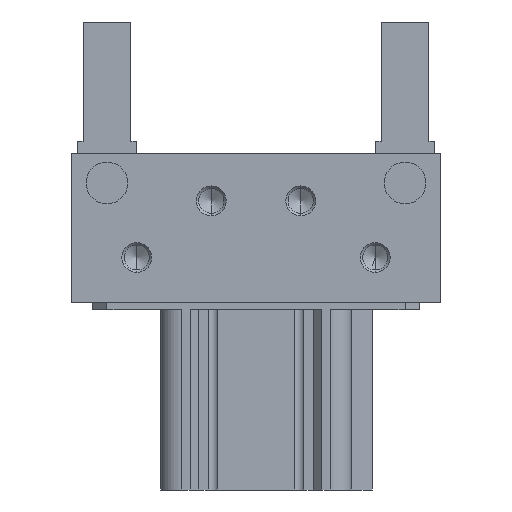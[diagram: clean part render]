
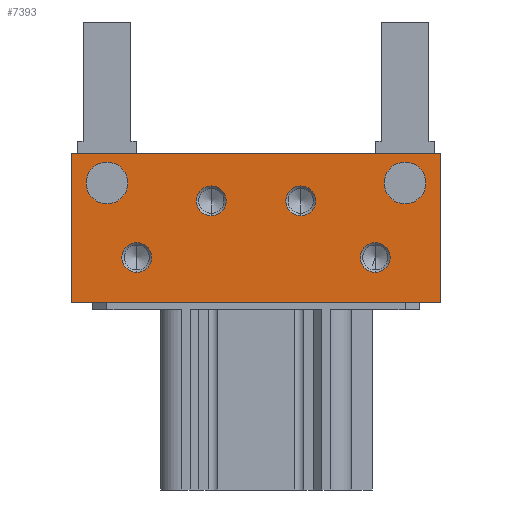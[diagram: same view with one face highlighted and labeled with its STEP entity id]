
A CAD part, front view. The second image highlights one B-rep face of the part: STEP entity #7393.
In plain terms, the highlighted planar face has unit normal (0, -1, 0).
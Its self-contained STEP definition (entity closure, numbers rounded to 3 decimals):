
#45 = DIRECTION ( 'NONE',  ( 0., 0., 1. ) ) ;
#60 = ORIENTED_EDGE ( 'NONE', *, *, #2615, .T. ) ;
#98 = ORIENTED_EDGE ( 'NONE', *, *, #6230, .T. ) ;
#113 = CARTESIAN_POINT ( 'NONE',  ( -15., -33., 97. ) ) ;
#180 = EDGE_CURVE ( 'NONE', #6258, #3249, #8071, .T. ) ;
#243 = CARTESIAN_POINT ( 'NONE',  ( 15., -33., 102. ) ) ;
#271 = VECTOR ( 'NONE', #5288, 1000. ) ;
#307 = DIRECTION ( 'NONE',  ( 0., 1., 0. ) ) ;
#324 = DIRECTION ( 'NONE',  ( 0., 1., 0. ) ) ;
#366 = FACE_BOUND ( 'NONE', #6221, .T. ) ;
#367 = CARTESIAN_POINT ( 'NONE',  ( -50., -33., 96. ) ) ;
#507 = VERTEX_POINT ( 'NONE', #7177 ) ;
#561 = VERTEX_POINT ( 'NONE', #4647 ) ;
#563 = VECTOR ( 'NONE', #45, 1000. ) ;
#687 = VERTEX_POINT ( 'NONE', #1142 ) ;
#784 = CARTESIAN_POINT ( 'NONE',  ( 62., -33., 63. ) ) ;
#892 = CARTESIAN_POINT ( 'NONE',  ( 62., -33., 113. ) ) ;
#919 = CARTESIAN_POINT ( 'NONE',  ( 40., -33., 83. ) ) ;
#959 = CARTESIAN_POINT ( 'NONE',  ( 15., -33., 97. ) ) ;
#974 = ORIENTED_EDGE ( 'NONE', *, *, #6402, .T. ) ;
#993 = DIRECTION ( 'NONE',  ( 0., 1., 0. ) ) ;
#1071 = VERTEX_POINT ( 'NONE', #2193 ) ;
#1076 = CIRCLE ( 'NONE', #3935, 5. ) ;
#1107 = DIRECTION ( 'NONE',  ( 0., 0., 1. ) ) ;
#1142 = CARTESIAN_POINT ( 'NONE',  ( 15., -33., 92. ) ) ;
#1165 = CIRCLE ( 'NONE', #4554, 7. ) ;
#1188 = DIRECTION ( 'NONE',  ( 0., 1., 0. ) ) ;
#1203 = AXIS2_PLACEMENT_3D ( 'NONE', #3915, #324, #2814 ) ;
#1348 = CIRCLE ( 'NONE', #6535, 5. ) ;
#1480 = EDGE_CURVE ( 'NONE', #687, #7184, #5240, .T. ) ;
#1630 = ORIENTED_EDGE ( 'NONE', *, *, #180, .T. ) ;
#1631 = EDGE_CURVE ( 'NONE', #4133, #561, #1840, .T. ) ;
#1681 = DIRECTION ( 'NONE',  ( 0., 1., 0. ) ) ;
#1739 = DIRECTION ( 'NONE',  ( 0., 0., 1. ) ) ;
#1762 = CARTESIAN_POINT ( 'NONE',  ( 50., -33., 103. ) ) ;
#1834 = DIRECTION ( 'NONE',  ( 0., 0., 1. ) ) ;
#1840 = LINE ( 'NONE', #1925, #563 ) ;
#1856 = EDGE_LOOP ( 'NONE', ( #2280, #5643 ) ) ;
#1878 = EDGE_CURVE ( 'NONE', #7521, #507, #4477, .T. ) ;
#1925 = CARTESIAN_POINT ( 'NONE',  ( -62., -33., 63. ) ) ;
#1937 = DIRECTION ( 'NONE',  ( 0., 0., 1. ) ) ;
#2084 = CARTESIAN_POINT ( 'NONE',  ( -15., -33., 92. ) ) ;
#2123 = EDGE_CURVE ( 'NONE', #3249, #6258, #6038, .T. ) ;
#2126 = PLANE ( 'NONE',  #1203 ) ;
#2193 = CARTESIAN_POINT ( 'NONE',  ( -50., -33., 110. ) ) ;
#2195 = VERTEX_POINT ( 'NONE', #6074 ) ;
#2260 = AXIS2_PLACEMENT_3D ( 'NONE', #7899, #7815, #7939 ) ;
#2280 = ORIENTED_EDGE ( 'NONE', *, *, #7707, .T. ) ;
#2347 = AXIS2_PLACEMENT_3D ( 'NONE', #6727, #6031, #1107 ) ;
#2467 = EDGE_LOOP ( 'NONE', ( #4024, #3415 ) ) ;
#2478 = VERTEX_POINT ( 'NONE', #784 ) ;
#2492 = VERTEX_POINT ( 'NONE', #367 ) ;
#2595 = VERTEX_POINT ( 'NONE', #5178 ) ;
#2615 = EDGE_CURVE ( 'NONE', #2195, #2834, #1165, .T. ) ;
#2619 = AXIS2_PLACEMENT_3D ( 'NONE', #2797, #307, #4478 ) ;
#2628 = EDGE_CURVE ( 'NONE', #1071, #2492, #5083, .T. ) ;
#2643 = ORIENTED_EDGE ( 'NONE', *, *, #7062, .F. ) ;
#2746 = CARTESIAN_POINT ( 'NONE',  ( 40., -33., 78. ) ) ;
#2797 = CARTESIAN_POINT ( 'NONE',  ( -50., -33., 103. ) ) ;
#2814 = DIRECTION ( 'NONE',  ( 1., 0., 0. ) ) ;
#2834 = VERTEX_POINT ( 'NONE', #3190 ) ;
#2853 = ORIENTED_EDGE ( 'NONE', *, *, #5595, .F. ) ;
#2917 = DIRECTION ( 'NONE',  ( 0., 1., 0. ) ) ;
#2953 = DIRECTION ( 'NONE',  ( 0., 0., 1. ) ) ;
#2981 = DIRECTION ( 'NONE',  ( 1., 0., 0. ) ) ;
#3030 = EDGE_LOOP ( 'NONE', ( #7938, #2853, #2643, #3579 ) ) ;
#3038 = EDGE_LOOP ( 'NONE', ( #60, #5564 ) ) ;
#3178 = CARTESIAN_POINT ( 'NONE',  ( -62., -33., 63. ) ) ;
#3190 = CARTESIAN_POINT ( 'NONE',  ( 50., -33., 110. ) ) ;
#3249 = VERTEX_POINT ( 'NONE', #3254 ) ;
#3254 = CARTESIAN_POINT ( 'NONE',  ( 40., -33., 73. ) ) ;
#3262 = CIRCLE ( 'NONE', #5746, 5. ) ;
#3294 = AXIS2_PLACEMENT_3D ( 'NONE', #5656, #4320, #1834 ) ;
#3308 = FACE_BOUND ( 'NONE', #5844, .T. ) ;
#3392 = FACE_BOUND ( 'NONE', #2467, .T. ) ;
#3415 = ORIENTED_EDGE ( 'NONE', *, *, #7895, .T. ) ;
#3473 = AXIS2_PLACEMENT_3D ( 'NONE', #3537, #7158, #4058 ) ;
#3537 = CARTESIAN_POINT ( 'NONE',  ( 50., -33., 103. ) ) ;
#3579 = ORIENTED_EDGE ( 'NONE', *, *, #6911, .F. ) ;
#3587 = CARTESIAN_POINT ( 'NONE',  ( -15., -33., 102. ) ) ;
#3915 = CARTESIAN_POINT ( 'NONE',  ( 0., -33., 0. ) ) ;
#3935 = AXIS2_PLACEMENT_3D ( 'NONE', #4212, #993, #2953 ) ;
#4024 = ORIENTED_EDGE ( 'NONE', *, *, #1878, .T. ) ;
#4058 = DIRECTION ( 'NONE',  ( 1., 0., 0. ) ) ;
#4133 = VERTEX_POINT ( 'NONE', #3178 ) ;
#4157 = CARTESIAN_POINT ( 'NONE',  ( 62., -33., 63. ) ) ;
#4200 = LINE ( 'NONE', #4157, #4659 ) ;
#4212 = CARTESIAN_POINT ( 'NONE',  ( -15., -33., 97. ) ) ;
#4220 = EDGE_CURVE ( 'NONE', #2834, #2195, #5805, .T. ) ;
#4320 = DIRECTION ( 'NONE',  ( 0., 1., 0. ) ) ;
#4477 = CIRCLE ( 'NONE', #2260, 5. ) ;
#4478 = DIRECTION ( 'NONE',  ( 1., 0., 0. ) ) ;
#4486 = EDGE_LOOP ( 'NONE', ( #98, #5232 ) ) ;
#4554 = AXIS2_PLACEMENT_3D ( 'NONE', #1762, #1188, #2981 ) ;
#4647 = CARTESIAN_POINT ( 'NONE',  ( -62., -33., 113. ) ) ;
#4659 = VECTOR ( 'NONE', #6680, 1000. ) ;
#4877 = VERTEX_POINT ( 'NONE', #2084 ) ;
#4950 = CARTESIAN_POINT ( 'NONE',  ( -40., -33., 78. ) ) ;
#5083 = CIRCLE ( 'NONE', #5984, 7. ) ;
#5178 = CARTESIAN_POINT ( 'NONE',  ( 62., -33., 113. ) ) ;
#5232 = ORIENTED_EDGE ( 'NONE', *, *, #2628, .T. ) ;
#5240 = CIRCLE ( 'NONE', #3294, 5. ) ;
#5288 = DIRECTION ( 'NONE',  ( 0., 0., -1. ) ) ;
#5320 = EDGE_CURVE ( 'NONE', #7306, #4877, #5715, .T. ) ;
#5564 = ORIENTED_EDGE ( 'NONE', *, *, #4220, .T. ) ;
#5595 = EDGE_CURVE ( 'NONE', #2478, #4133, #4200, .T. ) ;
#5643 = ORIENTED_EDGE ( 'NONE', *, *, #5320, .T. ) ;
#5656 = CARTESIAN_POINT ( 'NONE',  ( 15., -33., 97. ) ) ;
#5704 = DIRECTION ( 'NONE',  ( 1., 0., 0. ) ) ;
#5715 = CIRCLE ( 'NONE', #7794, 5. ) ;
#5746 = AXIS2_PLACEMENT_3D ( 'NONE', #959, #2917, #1739 ) ;
#5805 = CIRCLE ( 'NONE', #3473, 7. ) ;
#5844 = EDGE_LOOP ( 'NONE', ( #7492, #974 ) ) ;
#5863 = VECTOR ( 'NONE', #5704, 1000. ) ;
#5907 = FACE_BOUND ( 'NONE', #4486, .T. ) ;
#5965 = ORIENTED_EDGE ( 'NONE', *, *, #2123, .T. ) ;
#5984 = AXIS2_PLACEMENT_3D ( 'NONE', #6810, #6723, #6110 ) ;
#6031 = DIRECTION ( 'NONE',  ( 0., 1., 0. ) ) ;
#6038 = CIRCLE ( 'NONE', #6691, 5. ) ;
#6074 = CARTESIAN_POINT ( 'NONE',  ( 50., -33., 96. ) ) ;
#6110 = DIRECTION ( 'NONE',  ( 1., 0., 0. ) ) ;
#6124 = CIRCLE ( 'NONE', #2619, 7. ) ;
#6221 = EDGE_LOOP ( 'NONE', ( #5965, #1630 ) ) ;
#6230 = EDGE_CURVE ( 'NONE', #2492, #1071, #6124, .T. ) ;
#6258 = VERTEX_POINT ( 'NONE', #919 ) ;
#6402 = EDGE_CURVE ( 'NONE', #7184, #687, #3262, .T. ) ;
#6432 = FACE_BOUND ( 'NONE', #3038, .T. ) ;
#6530 = CARTESIAN_POINT ( 'NONE',  ( -40., -33., 73. ) ) ;
#6535 = AXIS2_PLACEMENT_3D ( 'NONE', #4950, #8045, #1937 ) ;
#6559 = FACE_OUTER_BOUND ( 'NONE', #3030, .T. ) ;
#6561 = DIRECTION ( 'NONE',  ( 0., 0., 1. ) ) ;
#6680 = DIRECTION ( 'NONE',  ( -1., 0., 0. ) ) ;
#6691 = AXIS2_PLACEMENT_3D ( 'NONE', #2746, #7058, #7143 ) ;
#6723 = DIRECTION ( 'NONE',  ( 0., 1., 0. ) ) ;
#6727 = CARTESIAN_POINT ( 'NONE',  ( 40., -33., 78. ) ) ;
#6810 = CARTESIAN_POINT ( 'NONE',  ( -50., -33., 103. ) ) ;
#6895 = LINE ( 'NONE', #7619, #5863 ) ;
#6911 = EDGE_CURVE ( 'NONE', #561, #2595, #6895, .T. ) ;
#7058 = DIRECTION ( 'NONE',  ( 0., 1., 0. ) ) ;
#7062 = EDGE_CURVE ( 'NONE', #2595, #2478, #7777, .T. ) ;
#7143 = DIRECTION ( 'NONE',  ( 0., 0., 1. ) ) ;
#7158 = DIRECTION ( 'NONE',  ( 0., 1., 0. ) ) ;
#7177 = CARTESIAN_POINT ( 'NONE',  ( -40., -33., 83. ) ) ;
#7184 = VERTEX_POINT ( 'NONE', #243 ) ;
#7306 = VERTEX_POINT ( 'NONE', #3587 ) ;
#7393 = ADVANCED_FACE ( 'NONE', ( #6559, #5907, #6432, #3392, #366, #7623, #3308 ), #2126, .F. ) ;
#7492 = ORIENTED_EDGE ( 'NONE', *, *, #1480, .T. ) ;
#7521 = VERTEX_POINT ( 'NONE', #6530 ) ;
#7619 = CARTESIAN_POINT ( 'NONE',  ( -62., -33., 113. ) ) ;
#7623 = FACE_BOUND ( 'NONE', #1856, .T. ) ;
#7707 = EDGE_CURVE ( 'NONE', #4877, #7306, #1076, .T. ) ;
#7777 = LINE ( 'NONE', #892, #271 ) ;
#7794 = AXIS2_PLACEMENT_3D ( 'NONE', #113, #1681, #6561 ) ;
#7815 = DIRECTION ( 'NONE',  ( 0., 1., 0. ) ) ;
#7895 = EDGE_CURVE ( 'NONE', #507, #7521, #1348, .T. ) ;
#7899 = CARTESIAN_POINT ( 'NONE',  ( -40., -33., 78. ) ) ;
#7938 = ORIENTED_EDGE ( 'NONE', *, *, #1631, .F. ) ;
#7939 = DIRECTION ( 'NONE',  ( 0., 0., 1. ) ) ;
#8045 = DIRECTION ( 'NONE',  ( 0., 1., 0. ) ) ;
#8071 = CIRCLE ( 'NONE', #2347, 5. ) ;
